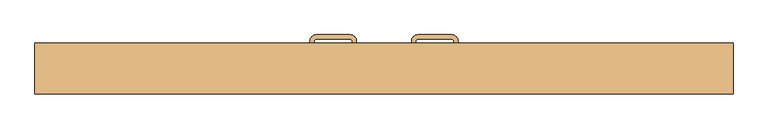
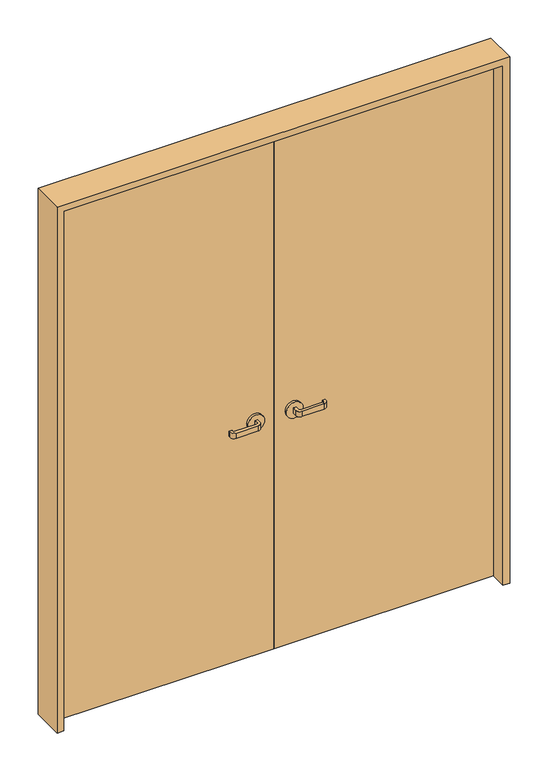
"""IFC4 building model written with IfcOpenShell, lengths in millimetres: door geometry, 両開き戸 : 両開き：w1600h2000."""

from ifc_helpers import new_model, si_unit, point, frame, frame_2d, origin, origin_with_axes, place, context, project, spatial, polyline, circle_curve, trimmed, segment, composite_curve, outline, extrude, source, transform, mapped, element, save


def door_1de376c6(model_context):
    return source(origin(), model_context, "Body", "SweptSolid", [
        extrude(outline(polyline([(791.5283918, 40.0), (791.5283918, 0.0), (-8.4716082, 0.0), (-8.4716082, 40.0), (791.5283918, 40.0)])), origin_with_axes(), (0.0, 0.0, 1.0), 2000.0),
        extrude(outline(polyline([(-8.4716082, 40.0), (-8.4716082, 0.0), (-808.4716082, 0.0), (-808.4716082, 40.0), (-8.4716082, 40.0)])), origin_with_axes(), (0.0, 0.0, 1.0), 2000.0),
        extrude(outline(composite_curve([segment(polyline([(-83.4716082, 50.0), (-83.4716082, 65.0)]), True, "CONTINUOUS"), segment(trimmed(circle_curve(frame_2d((-88.4716082, 65.0)), 5.0), [point((-83.4716082, 65.0))], [point((-88.4716082, 70.0))], True, "CARTESIAN"), True, "CONTINUOUS"), segment(polyline([(-88.4716082, 70.0), (-168.4716082, 70.0)]), True, "CONTINUOUS"), segment(trimmed(circle_curve(frame_2d((-168.4716082, 65.0)), 5.0), [point((-168.4716082, 70.0))], [point((-173.4716082, 65.0))], True, "CARTESIAN"), True, "CONTINUOUS"), segment(polyline([(-173.4716082, 65.0), (-173.4716082, 60.0), (-183.4716082, 60.0), (-183.4716082, 65.0)]), True, "CONTINUOUS"), segment(trimmed(circle_curve(frame_2d((-168.4716082, 65.0)), 15.0), [point((-183.4716082, 65.0))], [point((-168.4716082, 80.0))], False, "CARTESIAN"), True, "CONTINUOUS"), segment(polyline([(-168.4716082, 80.0), (-88.4716082, 80.0)]), True, "CONTINUOUS"), segment(trimmed(circle_curve(frame_2d((-88.4716082, 65.0)), 15.0), [point((-88.4716082, 80.0))], [point((-73.4716082, 65.0))], False, "CARTESIAN"), True, "CONTINUOUS"), segment(polyline([(-73.4716082, 65.0), (-73.4716082, 50.0), (-83.4716082, 50.0)]), True, "CONTINUOUS")], self_intersect=False)), frame((0.0, 0.0, 890.0), z_axis=(0.0, 0.0, 1.0), x_axis=(1.0, 0.0, 0.0)), (0.0, 0.0, 1.0), 20.0),
        extrude(outline(composite_curve([segment(trimmed(circle_curve(frame_2d((900.0, -78.4716082)), 30.0), [point((900.0, -48.4716082))], [point((900.0, -108.4716082))], False, "CARTESIAN"), True, "CONTINUOUS"), segment(trimmed(circle_curve(frame_2d((900.0, -78.4716082)), 30.0), [point((900.0, -108.4716082))], [point((900.0, -48.4716082))], False, "CARTESIAN"), True, "CONTINUOUS")], self_intersect=False)), frame((0.0, 40.0, 0.0), z_axis=(0.0, 1.0, 0.0), x_axis=(0.0, 0.0, 1.0)), (0.0, 0.0, 1.0), 10.0),
        extrude(outline(composite_curve([segment(polyline([(-73.4716082, -10.0), (-73.4716082, -25.0)]), True, "CONTINUOUS"), segment(trimmed(circle_curve(frame_2d((-88.4716082, -25.0)), 15.0), [point((-73.4716082, -25.0))], [point((-88.4716082, -40.0))], False, "CARTESIAN"), True, "CONTINUOUS"), segment(polyline([(-88.4716082, -40.0), (-168.4716082, -40.0)]), True, "CONTINUOUS"), segment(trimmed(circle_curve(frame_2d((-168.4716082, -25.0)), 15.0), [point((-168.4716082, -40.0))], [point((-183.4716082, -25.0))], False, "CARTESIAN"), True, "CONTINUOUS"), segment(polyline([(-183.4716082, -25.0), (-183.4716082, -20.0), (-173.4716082, -20.0), (-173.4716082, -25.0)]), True, "CONTINUOUS"), segment(trimmed(circle_curve(frame_2d((-168.4716082, -25.0)), 5.0), [point((-173.4716082, -25.0))], [point((-168.4716082, -30.0))], True, "CARTESIAN"), True, "CONTINUOUS"), segment(polyline([(-168.4716082, -30.0), (-88.4716082, -30.0)]), True, "CONTINUOUS"), segment(trimmed(circle_curve(frame_2d((-88.4716082, -25.0)), 5.0), [point((-88.4716082, -30.0))], [point((-83.4716082, -25.0))], True, "CARTESIAN"), True, "CONTINUOUS"), segment(polyline([(-83.4716082, -25.0), (-83.4716082, -10.0), (-73.4716082, -10.0)]), True, "CONTINUOUS")], self_intersect=False)), frame((0.0, 0.0, 890.0), z_axis=(0.0, 0.0, 1.0), x_axis=(1.0, 0.0, 0.0)), (0.0, 0.0, 1.0), 20.0),
        extrude(outline(composite_curve([segment(trimmed(circle_curve(frame_2d((900.0, -78.4716082)), 30.0), [point((900.0, -48.4716082))], [point((900.0, -108.4716082))], False, "CARTESIAN"), True, "CONTINUOUS"), segment(trimmed(circle_curve(frame_2d((900.0, -78.4716082)), 30.0), [point((900.0, -108.4716082))], [point((900.0, -48.4716082))], False, "CARTESIAN"), True, "CONTINUOUS")], self_intersect=False)), frame((0.0, -10.0, 0.0), z_axis=(0.0, 1.0, 0.0), x_axis=(0.0, 0.0, 1.0)), (0.0, 0.0, 1.0), 10.0),
        extrude(outline(composite_curve([segment(polyline([(66.5283918, 50.0), (56.5283918, 50.0), (56.5283918, 65.0)]), True, "CONTINUOUS"), segment(trimmed(circle_curve(frame_2d((71.5283918, 65.0)), 15.0), [point((56.5283918, 65.0))], [point((71.5283918, 80.0))], False, "CARTESIAN"), True, "CONTINUOUS"), segment(polyline([(71.5283918, 80.0), (151.5283918, 80.0)]), True, "CONTINUOUS"), segment(trimmed(circle_curve(frame_2d((151.5283918, 65.0)), 15.0), [point((151.5283918, 80.0))], [point((166.5283918, 65.0))], False, "CARTESIAN"), True, "CONTINUOUS"), segment(polyline([(166.5283918, 65.0), (166.5283918, 60.0), (156.5283918, 60.0), (156.5283918, 65.0)]), True, "CONTINUOUS"), segment(trimmed(circle_curve(frame_2d((151.5283918, 65.0)), 5.0), [point((156.5283918, 65.0))], [point((151.5283918, 70.0))], True, "CARTESIAN"), True, "CONTINUOUS"), segment(polyline([(151.5283918, 70.0), (71.5283918, 70.0)]), True, "CONTINUOUS"), segment(trimmed(circle_curve(frame_2d((71.5283918, 65.0)), 5.0), [point((71.5283918, 70.0))], [point((66.5283918, 65.0))], True, "CARTESIAN"), True, "CONTINUOUS"), segment(polyline([(66.5283918, 65.0), (66.5283918, 50.0)]), True, "CONTINUOUS")], self_intersect=False)), frame((0.0, 0.0, 890.0), z_axis=(0.0, 0.0, 1.0), x_axis=(1.0, 0.0, 0.0)), (0.0, 0.0, 1.0), 20.0),
        extrude(outline(composite_curve([segment(trimmed(circle_curve(frame_2d((900.0, 61.5283918)), 30.0), [point((900.0, 31.5283918))], [point((900.0, 91.5283918))], False, "CARTESIAN"), True, "CONTINUOUS"), segment(trimmed(circle_curve(frame_2d((900.0, 61.5283918)), 30.0), [point((900.0, 91.5283918))], [point((900.0, 31.5283918))], False, "CARTESIAN"), True, "CONTINUOUS")], self_intersect=False)), frame((0.0, 40.0, 0.0), z_axis=(0.0, 1.0, 0.0), x_axis=(0.0, 0.0, 1.0)), (0.0, 0.0, 1.0), 10.0),
        extrude(outline(composite_curve([segment(polyline([(56.5283918, -10.0), (66.5283918, -10.0), (66.5283918, -25.0)]), True, "CONTINUOUS"), segment(trimmed(circle_curve(frame_2d((71.5283918, -25.0)), 5.0), [point((66.5283918, -25.0))], [point((71.5283918, -30.0))], True, "CARTESIAN"), True, "CONTINUOUS"), segment(polyline([(71.5283918, -30.0), (151.5283918, -30.0)]), True, "CONTINUOUS"), segment(trimmed(circle_curve(frame_2d((151.5283918, -25.0)), 5.0), [point((151.5283918, -30.0))], [point((156.5283918, -25.0))], True, "CARTESIAN"), True, "CONTINUOUS"), segment(polyline([(156.5283918, -25.0), (156.5283918, -20.0), (166.5283918, -20.0), (166.5283918, -25.0)]), True, "CONTINUOUS"), segment(trimmed(circle_curve(frame_2d((151.5283918, -25.0)), 15.0), [point((166.5283918, -25.0))], [point((151.5283918, -40.0))], False, "CARTESIAN"), True, "CONTINUOUS"), segment(polyline([(151.5283918, -40.0), (71.5283918, -40.0)]), True, "CONTINUOUS"), segment(trimmed(circle_curve(frame_2d((71.5283918, -25.0)), 15.0), [point((71.5283918, -40.0))], [point((56.5283918, -25.0))], False, "CARTESIAN"), True, "CONTINUOUS"), segment(polyline([(56.5283918, -25.0), (56.5283918, -10.0)]), True, "CONTINUOUS")], self_intersect=False)), frame((0.0, 0.0, 890.0), z_axis=(0.0, 0.0, 1.0), x_axis=(1.0, 0.0, 0.0)), (0.0, 0.0, 1.0), 20.0),
        extrude(outline(composite_curve([segment(trimmed(circle_curve(frame_2d((900.0, 61.5283918)), 30.0), [point((900.0, 31.5283918))], [point((900.0, 91.5283918))], False, "CARTESIAN"), True, "CONTINUOUS"), segment(trimmed(circle_curve(frame_2d((900.0, 61.5283918)), 30.0), [point((900.0, 91.5283918))], [point((900.0, 31.5283918))], False, "CARTESIAN"), True, "CONTINUOUS")], self_intersect=False)), frame((0.0, -10.0, 0.0), z_axis=(0.0, 1.0, 0.0), x_axis=(0.0, 0.0, 1.0)), (0.0, 0.0, 1.0), 10.0),
        extrude(outline(polyline([(0.0, -833.4716082), (0.0, -808.4716082), (2000.0, -808.4716082), (2000.0, 791.5283918), (0.0, 791.5283918), (0.0, 816.5283918), (2025.0, 816.5283918), (2025.0, -833.4716082), (0.0, -833.4716082)])), frame((0.0, -60.0, 0.0), z_axis=(0.0, 1.0, 0.0), x_axis=(0.0, 0.0, 1.0)), (0.0, 0.0, 1.0), 120.0),
    ])


if __name__ == "__main__":
    model = new_model("IFC4")
    model_context = context("Model", 3, world=origin())
    ifc_project = project(units=[si_unit("LENGTHUNIT", "METRE", prefix="MILLI")], contexts=[model_context])
    site = spatial("IfcSite", under=ifc_project)
    building = spatial("IfcBuilding", under=site)
    placement = place(None, origin())
    door_shape = door_1de376c6(model_context)
    element("IfcDoor", 1, ObjectType="両開き戸 : 両開き：w1600h2000", at=placement, inside=building, context=model_context, shape_type="MappedRepresentation", body=[
        mapped(door_shape, transform((0.0, 0.0, 0.0), x_axis=(1.0, 0.0, 0.0), y_axis=(0.0, 1.0, 0.0), z_axis=(0.0, 0.0, 1.0))),
    ])
    save(model, "model.ifc")
